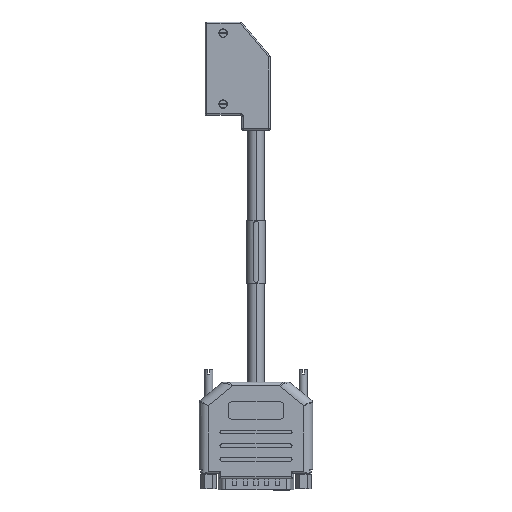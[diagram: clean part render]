
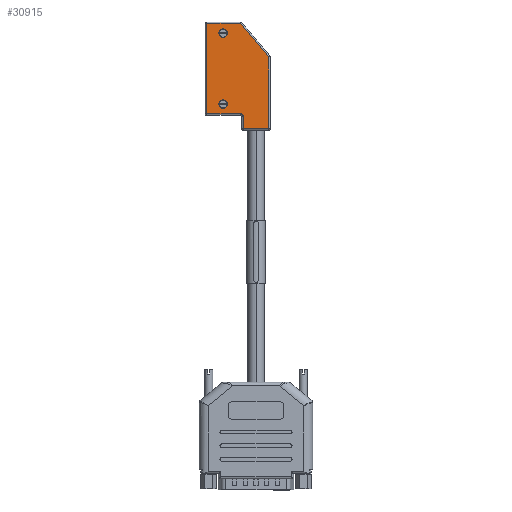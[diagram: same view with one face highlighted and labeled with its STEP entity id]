
A CAD part, top view. The second image highlights one B-rep face of the part: STEP entity #30915.
In plain terms, the highlighted planar face has unit normal (0, 0, 1).
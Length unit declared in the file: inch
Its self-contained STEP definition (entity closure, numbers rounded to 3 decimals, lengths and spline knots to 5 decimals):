
#63 = CARTESIAN_POINT ( 'NONE',  ( 2.13219, 3.71265, 0.63722 ) ) ;
#94 = EDGE_CURVE ( 'NONE', #20588, #30279, #15081, .T. ) ;
#198 = ORIENTED_EDGE ( 'NONE', *, *, #26296, .T. ) ;
#463 = CARTESIAN_POINT ( 'NONE',  ( 1.49987, 5.09796, 0.63722 ) ) ;
#783 = CARTESIAN_POINT ( 'NONE',  ( 1.73679, 5.18031, 0.63722 ) ) ;
#1265 = DIRECTION ( 'NONE',  ( 0., 0., -1. ) ) ;
#1695 = DIRECTION ( 'NONE',  ( 1., 0., 0. ) ) ;
#2022 = VECTOR ( 'NONE', #26524, 39.37008 ) ;
#2173 = LINE ( 'NONE', #783, #2022 ) ;
#2258 = VERTEX_POINT ( 'NONE', #5302 ) ;
#2469 = EDGE_CURVE ( 'NONE', #2258, #2785, #12706, .T. ) ;
#2581 = AXIS2_PLACEMENT_3D ( 'NONE', #27404, #20162, #16895 ) ;
#2753 = EDGE_CURVE ( 'NONE', #20588, #12559, #17039, .T. ) ;
#2785 = VERTEX_POINT ( 'NONE', #7149 ) ;
#2871 = CIRCLE ( 'NONE', #24920, 0.06 ) ;
#2947 = DIRECTION ( 'NONE',  ( 0., 0., -1. ) ) ;
#3034 = VECTOR ( 'NONE', #17059, 39.37008 ) ;
#3098 = DIRECTION ( 'NONE',  ( 0., -1., 0. ) ) ;
#3365 = CARTESIAN_POINT ( 'NONE',  ( 1.49987, 4.97796, 0.63722 ) ) ;
#3424 = VECTOR ( 'NONE', #9831, 39.37008 ) ;
#3812 = EDGE_CURVE ( 'NONE', #6315, #26519, #23112, .T. ) ;
#4024 = CARTESIAN_POINT ( 'NONE',  ( 2.15187, 3.71265, 0.63722 ) ) ;
#4582 = CIRCLE ( 'NONE', #25873, 0.06 ) ;
#5165 = EDGE_CURVE ( 'NONE', #18989, #7060, #4582, .T. ) ;
#5302 = CARTESIAN_POINT ( 'NONE',  ( 1.74269, 5.17328, 0.63722 ) ) ;
#5814 = DIRECTION ( 'NONE',  ( 0., 0., -1. ) ) ;
#6315 = VERTEX_POINT ( 'NONE', #3365 ) ;
#6758 = CARTESIAN_POINT ( 'NONE',  ( 2.13219, 4.71626, 0.63722 ) ) ;
#7060 = VERTEX_POINT ( 'NONE', #33360 ) ;
#7149 = CARTESIAN_POINT ( 'NONE',  ( 1.27156, 5.17328, 0.63722 ) ) ;
#7177 = DIRECTION ( 'NONE',  ( 0., 1., 0. ) ) ;
#7516 = CARTESIAN_POINT ( 'NONE',  ( 2.13219, 4.70909, 0.63722 ) ) ;
#7992 = FACE_BOUND ( 'NONE', #32895, .T. ) ;
#8226 = ORIENTED_EDGE ( 'NONE', *, *, #17984, .T. ) ;
#8394 = CARTESIAN_POINT ( 'NONE',  ( 1.27156, 3.91865, 0.63722 ) ) ;
#9267 = DIRECTION ( 'NONE',  ( 0., 1., 0. ) ) ;
#9355 = EDGE_LOOP ( 'NONE', ( #21703, #8226, #198, #32009, #18056, #10068, #29421, #11658 ) ) ;
#9365 = CARTESIAN_POINT ( 'NONE',  ( 1.74219, 3.91865, 0.63722 ) ) ;
#9388 = CARTESIAN_POINT ( 'NONE',  ( 1.27156, 3.91865, 0.63722 ) ) ;
#9408 = ORIENTED_EDGE ( 'NONE', *, *, #5165, .T. ) ;
#9831 = DIRECTION ( 'NONE',  ( 0., -1., 0. ) ) ;
#10045 = VECTOR ( 'NONE', #1695, 39.37008 ) ;
#10068 = ORIENTED_EDGE ( 'NONE', *, *, #17550, .T. ) ;
#10585 = AXIS2_PLACEMENT_3D ( 'NONE', #30733, #2947, #7177 ) ;
#10800 = CARTESIAN_POINT ( 'NONE',  ( 1.25187, 5.17328, 0.63722 ) ) ;
#10945 = EDGE_CURVE ( 'NONE', #7060, #18989, #2871, .T. ) ;
#11346 = EDGE_LOOP ( 'NONE', ( #31021, #15392 ) ) ;
#11658 = ORIENTED_EDGE ( 'NONE', *, *, #13658, .T. ) ;
#11891 = ORIENTED_EDGE ( 'NONE', *, *, #10945, .T. ) ;
#11896 = CARTESIAN_POINT ( 'NONE',  ( 1.78156, 3.69296, 0.63722 ) ) ;
#12441 = VECTOR ( 'NONE', #15636, 39.37008 ) ;
#12559 = VERTEX_POINT ( 'NONE', #9365 ) ;
#12706 = LINE ( 'NONE', #10800, #12441 ) ;
#12731 = LINE ( 'NONE', #4024, #24213 ) ;
#13658 = EDGE_CURVE ( 'NONE', #28393, #2258, #2173, .T. ) ;
#13763 = AXIS2_PLACEMENT_3D ( 'NONE', #16238, #32304, #3098 ) ;
#14536 = DIRECTION ( 'NONE',  ( 0., 1., 0. ) ) ;
#14640 = EDGE_CURVE ( 'NONE', #26519, #6315, #29059, .T. ) ;
#15081 = LINE ( 'NONE', #11896, #3034 ) ;
#15392 = ORIENTED_EDGE ( 'NONE', *, *, #14640, .T. ) ;
#15636 = DIRECTION ( 'NONE',  ( -1., 0., 0. ) ) ;
#16238 = CARTESIAN_POINT ( 'NONE',  ( 1.25187, 3.69296, 0.63722 ) ) ;
#16895 = DIRECTION ( 'NONE',  ( 0., -1., 0. ) ) ;
#17039 = CIRCLE ( 'NONE', #2581, 0.03937 ) ;
#17059 = DIRECTION ( 'NONE',  ( 0., -1., 0. ) ) ;
#17400 = FACE_OUTER_BOUND ( 'NONE', #9355, .T. ) ;
#17550 = EDGE_CURVE ( 'NONE', #30279, #30527, #12731, .T. ) ;
#17585 = VECTOR ( 'NONE', #9267, 39.37008 ) ;
#17984 = EDGE_CURVE ( 'NONE', #2785, #28147, #26889, .T. ) ;
#18056 = ORIENTED_EDGE ( 'NONE', *, *, #94, .T. ) ;
#18989 = VERTEX_POINT ( 'NONE', #26768 ) ;
#20162 = DIRECTION ( 'NONE',  ( 0., 0., 1. ) ) ;
#20588 = VERTEX_POINT ( 'NONE', #27067 ) ;
#21093 = CARTESIAN_POINT ( 'NONE',  ( 1.78156, 3.71265, 0.63722 ) ) ;
#21693 = EDGE_CURVE ( 'NONE', #30527, #28393, #29061, .T. ) ;
#21703 = ORIENTED_EDGE ( 'NONE', *, *, #2469, .T. ) ;
#23112 = CIRCLE ( 'NONE', #31034, 0.06 ) ;
#23612 = DIRECTION ( 'NONE',  ( 0., 1., 0. ) ) ;
#24035 = CARTESIAN_POINT ( 'NONE',  ( 1.49987, 4.05396, 0.63722 ) ) ;
#24213 = VECTOR ( 'NONE', #26572, 39.37008 ) ;
#24920 = AXIS2_PLACEMENT_3D ( 'NONE', #24035, #5814, #23612 ) ;
#25597 = DIRECTION ( 'NONE',  ( 0., 0., -1. ) ) ;
#25823 = DIRECTION ( 'NONE',  ( 0., 1., 0. ) ) ;
#25873 = AXIS2_PLACEMENT_3D ( 'NONE', #31111, #25597, #25823 ) ;
#26296 = EDGE_CURVE ( 'NONE', #28147, #12559, #32860, .T. ) ;
#26519 = VERTEX_POINT ( 'NONE', #463 ) ;
#26524 = DIRECTION ( 'NONE',  ( -0.643, 0.766, 0. ) ) ;
#26572 = DIRECTION ( 'NONE',  ( 1., 0., 0. ) ) ;
#26768 = CARTESIAN_POINT ( 'NONE',  ( 1.49987, 3.99396, 0.63722 ) ) ;
#26889 = LINE ( 'NONE', #9388, #3424 ) ;
#27067 = CARTESIAN_POINT ( 'NONE',  ( 1.78156, 3.87928, 0.63722 ) ) ;
#27404 = CARTESIAN_POINT ( 'NONE',  ( 1.74219, 3.87928, 0.63722 ) ) ;
#27713 = CARTESIAN_POINT ( 'NONE',  ( 1.76187, 3.91865, 0.63722 ) ) ;
#28147 = VERTEX_POINT ( 'NONE', #8394 ) ;
#28393 = VERTEX_POINT ( 'NONE', #7516 ) ;
#28820 = FACE_BOUND ( 'NONE', #11346, .T. ) ;
#29059 = CIRCLE ( 'NONE', #10585, 0.06 ) ;
#29061 = LINE ( 'NONE', #6758, #17585 ) ;
#29421 = ORIENTED_EDGE ( 'NONE', *, *, #21693, .T. ) ;
#30279 = VERTEX_POINT ( 'NONE', #21093 ) ;
#30527 = VERTEX_POINT ( 'NONE', #63 ) ;
#30733 = CARTESIAN_POINT ( 'NONE',  ( 1.49987, 5.03796, 0.63722 ) ) ;
#30915 = ADVANCED_FACE ( 'NONE', ( #17400, #28820, #7992 ), #31843, .T. ) ;
#31021 = ORIENTED_EDGE ( 'NONE', *, *, #3812, .T. ) ;
#31034 = AXIS2_PLACEMENT_3D ( 'NONE', #32780, #1265, #14536 ) ;
#31111 = CARTESIAN_POINT ( 'NONE',  ( 1.49987, 4.05396, 0.63722 ) ) ;
#31843 = PLANE ( 'NONE',  #13763 ) ;
#32009 = ORIENTED_EDGE ( 'NONE', *, *, #2753, .F. ) ;
#32304 = DIRECTION ( 'NONE',  ( 0., 0., 1. ) ) ;
#32780 = CARTESIAN_POINT ( 'NONE',  ( 1.49987, 5.03796, 0.63722 ) ) ;
#32860 = LINE ( 'NONE', #27713, #10045 ) ;
#32895 = EDGE_LOOP ( 'NONE', ( #9408, #11891 ) ) ;
#33360 = CARTESIAN_POINT ( 'NONE',  ( 1.49987, 4.11396, 0.63722 ) ) ;
